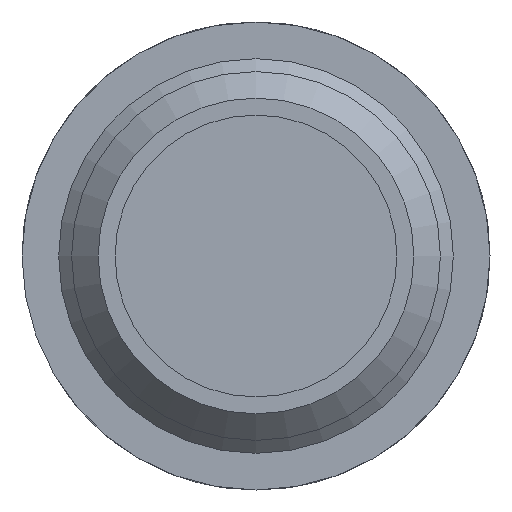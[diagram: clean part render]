
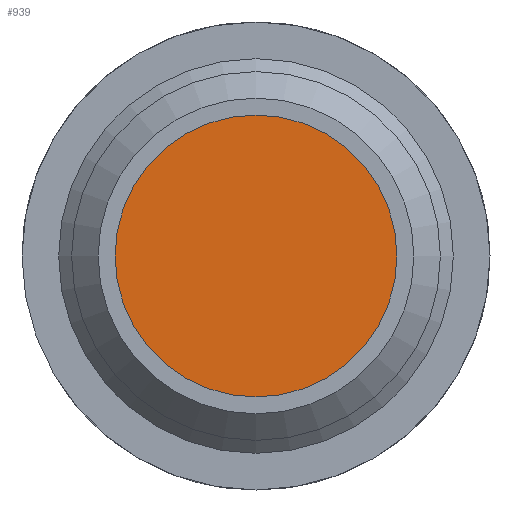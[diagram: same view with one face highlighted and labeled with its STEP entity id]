
A CAD part, left-side view. The second image highlights one B-rep face of the part: STEP entity #939.
In plain terms, the highlighted planar face has unit normal (-1, 0, 0).
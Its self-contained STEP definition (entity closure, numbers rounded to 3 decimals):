
#120=PLANE($,#1072);
#193=FACE_OUTER_BOUND($,#260,.T.);
#260=EDGE_LOOP($,(#731));
#344=CIRCLE($,#1073,35.);
#433=VERTEX_POINT($,#1904);
#558=EDGE_CURVE($,#433,#433,#344,.T.);
#731=ORIENTED_EDGE($,*,*,#558,.F.);
#939=ADVANCED_FACE($,(#193),#120,.T.);
#1072=AXIS2_PLACEMENT_3D($,#1903,#1355,#1356);
#1073=AXIS2_PLACEMENT_3D($,#1905,#1357,#1358);
#1355=DIRECTION('center_axis',(-1.,0.,0.));
#1356=DIRECTION('ref_axis',(0.,0.,1.));
#1357=DIRECTION('center_axis',(1.,0.,0.));
#1358=DIRECTION('ref_axis',(0.,1.,0.));
#1903=CARTESIAN_POINT('Origin',(-6.,17.5,0.));
#1904=CARTESIAN_POINT('',(-6.,35.,0.));
#1905=CARTESIAN_POINT('Origin',(-6.,0.,0.));
